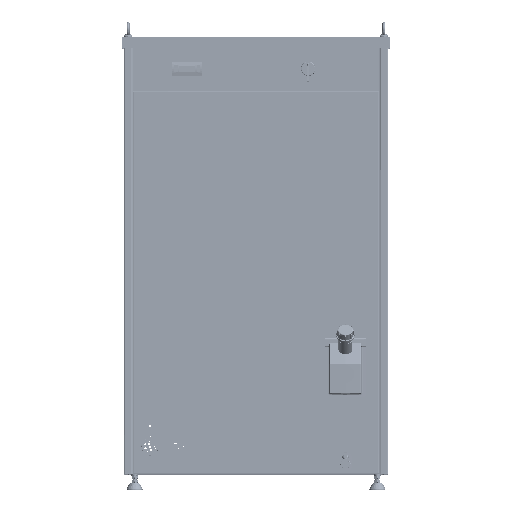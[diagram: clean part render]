
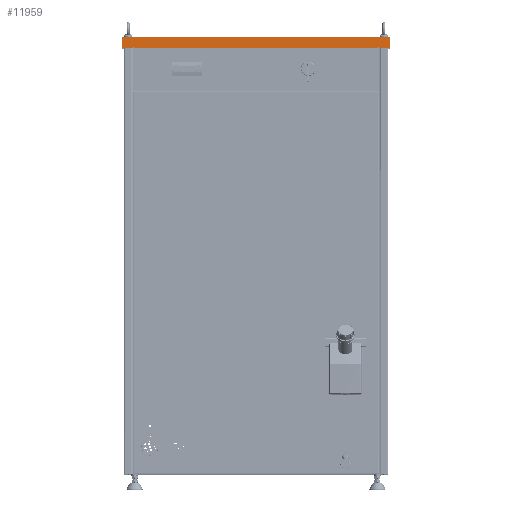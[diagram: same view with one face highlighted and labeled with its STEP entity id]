
A CAD part, top view. The second image highlights one B-rep face of the part: STEP entity #11959.
In plain terms, the highlighted planar face has unit normal (0, 0, 1) as drawn and (0, 1, 0) by its records, which use the part's own axes.
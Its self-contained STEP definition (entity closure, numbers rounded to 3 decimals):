
#4785 = LINE ( 'NONE', #164464, #46740 ) ;
#6170 = EDGE_CURVE ( 'NONE', #21203, #66302, #27001, .T. ) ;
#6841 = CARTESIAN_POINT ( 'NONE',  ( 308.1, 330.5, 27. ) ) ;
#11959 = ADVANCED_FACE ( 'NONE', ( #96460 ), #107117, .F. ) ;
#14324 = EDGE_CURVE ( 'NONE', #216471, #33567, #204262, .T. ) ;
#15360 = CARTESIAN_POINT ( 'NONE',  ( 308.1, 330.5, 30. ) ) ;
#15967 = VECTOR ( 'NONE', #216641, 1000. ) ;
#16098 = EDGE_CURVE ( 'NONE', #212930, #126504, #209897, .T. ) ;
#17961 = DIRECTION ( 'NONE',  ( 0., 0., 1. ) ) ;
#18937 = DIRECTION ( 'NONE',  ( 0., -1., 0. ) ) ;
#20138 = VECTOR ( 'NONE', #60080, 1000. ) ;
#21203 = VERTEX_POINT ( 'NONE', #102374 ) ;
#21791 = DIRECTION ( 'NONE',  ( 0., 0., -1. ) ) ;
#27001 = LINE ( 'NONE', #178499, #121822 ) ;
#28222 = CARTESIAN_POINT ( 'NONE',  ( -308.1, 330.5, 27. ) ) ;
#33567 = VERTEX_POINT ( 'NONE', #91864 ) ;
#35167 = DIRECTION ( 'NONE',  ( 0., 0., 1. ) ) ;
#39322 = VERTEX_POINT ( 'NONE', #128631 ) ;
#40782 = CARTESIAN_POINT ( 'NONE',  ( 335.5, 330.5, 30. ) ) ;
#42515 = CARTESIAN_POINT ( 'NONE',  ( 335.5, 330.5, 30. ) ) ;
#42659 = DIRECTION ( 'NONE',  ( 0., 0., 1. ) ) ;
#46188 = VECTOR ( 'NONE', #57080, 1000. ) ;
#46740 = VECTOR ( 'NONE', #21791, 1000. ) ;
#46843 = CARTESIAN_POINT ( 'NONE',  ( 335.5, 330.5, 30. ) ) ;
#46858 = ORIENTED_EDGE ( 'NONE', *, *, #129514, .F. ) ;
#48837 = CARTESIAN_POINT ( 'NONE',  ( -307.5, 330.5, 27. ) ) ;
#51241 = DIRECTION ( 'NONE',  ( 1., 0., 0. ) ) ;
#51765 = LINE ( 'NONE', #145940, #46188 ) ;
#57080 = DIRECTION ( 'NONE',  ( -1., 0., 0. ) ) ;
#60080 = DIRECTION ( 'NONE',  ( 0., 0., 1. ) ) ;
#65204 = ORIENTED_EDGE ( 'NONE', *, *, #122302, .T. ) ;
#65583 = EDGE_LOOP ( 'NONE', ( #46858, #159273, #146312, #65204, #170650, #88779, #204249, #175543, #89469, #209746, #228142, #166868 ) ) ;
#66302 = VERTEX_POINT ( 'NONE', #46843 ) ;
#69068 = DIRECTION ( 'NONE',  ( -1., 0., 0. ) ) ;
#77611 = EDGE_CURVE ( 'NONE', #113586, #90142, #186980, .T. ) ;
#88779 = ORIENTED_EDGE ( 'NONE', *, *, #164313, .F. ) ;
#89469 = ORIENTED_EDGE ( 'NONE', *, *, #6170, .F. ) ;
#90022 = VERTEX_POINT ( 'NONE', #28222 ) ;
#90142 = VERTEX_POINT ( 'NONE', #6841 ) ;
#91864 = CARTESIAN_POINT ( 'NONE',  ( 307.5, 330.5, 27.6 ) ) ;
#95926 = CARTESIAN_POINT ( 'NONE',  ( 307.5, 330.5, 30. ) ) ;
#96460 = FACE_OUTER_BOUND ( 'NONE', #65583, .T. ) ;
#101737 = CARTESIAN_POINT ( 'NONE',  ( -335.5, 330.5, 30. ) ) ;
#102374 = CARTESIAN_POINT ( 'NONE',  ( 335.5, 330.5, 2.4 ) ) ;
#102785 = VECTOR ( 'NONE', #201337, 1000. ) ;
#107117 = PLANE ( 'NONE',  #135563 ) ;
#110863 = LINE ( 'NONE', #127027, #15967 ) ;
#113586 = VERTEX_POINT ( 'NONE', #15360 ) ;
#115938 = CARTESIAN_POINT ( 'NONE',  ( 307.5, 330.5, 27. ) ) ;
#121822 = VECTOR ( 'NONE', #17961, 1000. ) ;
#122302 = EDGE_CURVE ( 'NONE', #39322, #33567, #138601, .T. ) ;
#122859 = LINE ( 'NONE', #42515, #217624 ) ;
#125734 = CARTESIAN_POINT ( 'NONE',  ( 335.5, 330.5, 30. ) ) ;
#126504 = VERTEX_POINT ( 'NONE', #101737 ) ;
#127027 = CARTESIAN_POINT ( 'NONE',  ( 335.5, 330.5, 2.4 ) ) ;
#128631 = CARTESIAN_POINT ( 'NONE',  ( -307.5, 330.5, 27.6 ) ) ;
#129514 = EDGE_CURVE ( 'NONE', #90022, #202921, #167324, .T. ) ;
#132978 = VECTOR ( 'NONE', #51241, 1000. ) ;
#135223 = VERTEX_POINT ( 'NONE', #48837 ) ;
#135563 = AXIS2_PLACEMENT_3D ( 'NONE', #125734, #18937, #143682 ) ;
#138601 = LINE ( 'NONE', #175868, #132978 ) ;
#139558 = VECTOR ( 'NONE', #187346, 1000. ) ;
#143682 = DIRECTION ( 'NONE',  ( 0., 0., -1. ) ) ;
#145940 = CARTESIAN_POINT ( 'NONE',  ( 335.5, 330.5, 27. ) ) ;
#146312 = ORIENTED_EDGE ( 'NONE', *, *, #200840, .F. ) ;
#149467 = CARTESIAN_POINT ( 'NONE',  ( -335.5, 330.5, 2.4 ) ) ;
#150199 = LINE ( 'NONE', #40782, #102785 ) ;
#151553 = CARTESIAN_POINT ( 'NONE',  ( 308.1, 330.5, 30. ) ) ;
#154057 = VECTOR ( 'NONE', #69068, 1000. ) ;
#159273 = ORIENTED_EDGE ( 'NONE', *, *, #212899, .F. ) ;
#164313 = EDGE_CURVE ( 'NONE', #90142, #216471, #51765, .T. ) ;
#164464 = CARTESIAN_POINT ( 'NONE',  ( -307.5, 330.5, 30. ) ) ;
#166864 = EDGE_CURVE ( 'NONE', #66302, #113586, #122859, .T. ) ;
#166868 = ORIENTED_EDGE ( 'NONE', *, *, #185836, .F. ) ;
#167324 = LINE ( 'NONE', #212803, #209114 ) ;
#168130 = VECTOR ( 'NONE', #42659, 1000. ) ;
#170650 = ORIENTED_EDGE ( 'NONE', *, *, #14324, .F. ) ;
#175543 = ORIENTED_EDGE ( 'NONE', *, *, #166864, .F. ) ;
#175868 = CARTESIAN_POINT ( 'NONE',  ( -307.5, 330.5, 27.6 ) ) ;
#178499 = CARTESIAN_POINT ( 'NONE',  ( 335.5, 330.5, 2.4 ) ) ;
#185107 = DIRECTION ( 'NONE',  ( -1., 0., 0. ) ) ;
#185836 = EDGE_CURVE ( 'NONE', #202921, #126504, #150199, .T. ) ;
#186980 = LINE ( 'NONE', #151553, #139558 ) ;
#187346 = DIRECTION ( 'NONE',  ( 0., 0., -1. ) ) ;
#193711 = CARTESIAN_POINT ( 'NONE',  ( 335.5, 330.5, 27. ) ) ;
#200804 = EDGE_CURVE ( 'NONE', #212930, #21203, #110863, .T. ) ;
#200840 = EDGE_CURVE ( 'NONE', #39322, #135223, #4785, .T. ) ;
#201337 = DIRECTION ( 'NONE',  ( -1., 0., 0. ) ) ;
#202921 = VERTEX_POINT ( 'NONE', #213280 ) ;
#204249 = ORIENTED_EDGE ( 'NONE', *, *, #77611, .F. ) ;
#204262 = LINE ( 'NONE', #95926, #20138 ) ;
#206973 = LINE ( 'NONE', #193711, #154057 ) ;
#209114 = VECTOR ( 'NONE', #35167, 1000. ) ;
#209746 = ORIENTED_EDGE ( 'NONE', *, *, #200804, .F. ) ;
#209897 = LINE ( 'NONE', #149467, #168130 ) ;
#211565 = CARTESIAN_POINT ( 'NONE',  ( -335.5, 330.5, 2.4 ) ) ;
#212803 = CARTESIAN_POINT ( 'NONE',  ( -308.1, 330.5, 30. ) ) ;
#212899 = EDGE_CURVE ( 'NONE', #135223, #90022, #206973, .T. ) ;
#212930 = VERTEX_POINT ( 'NONE', #211565 ) ;
#213280 = CARTESIAN_POINT ( 'NONE',  ( -308.1, 330.5, 30. ) ) ;
#216471 = VERTEX_POINT ( 'NONE', #115938 ) ;
#216641 = DIRECTION ( 'NONE',  ( 1., 0., 0. ) ) ;
#217624 = VECTOR ( 'NONE', #185107, 1000. ) ;
#228142 = ORIENTED_EDGE ( 'NONE', *, *, #16098, .T. ) ;
